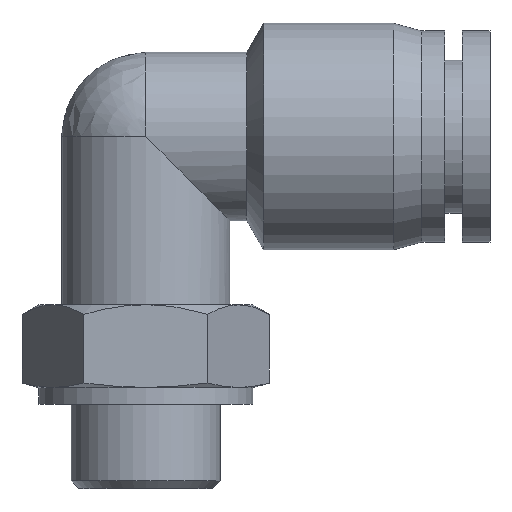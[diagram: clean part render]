
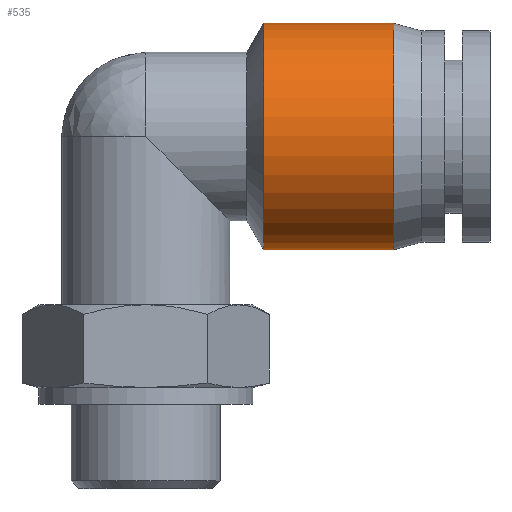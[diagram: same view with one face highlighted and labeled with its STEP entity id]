
A CAD part, top view. The second image highlights one B-rep face of the part: STEP entity #535.
In plain terms, the highlighted cylindrical face has radius 7.4 mm (diameter 14.8 mm), a full revolution.
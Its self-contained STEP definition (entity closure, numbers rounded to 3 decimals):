
#75=FACE_BOUND($,#177,.T.);
#92=CYLINDRICAL_SURFACE($,#604,7.4);
#127=FACE_OUTER_BOUND($,#176,.T.);
#176=EDGE_LOOP($,(#473));
#177=EDGE_LOOP($,(#474));
#216=CIRCLE($,#603,7.4);
#217=CIRCLE($,#605,7.4);
#280=VERTEX_POINT($,#975);
#281=VERTEX_POINT($,#978);
#347=EDGE_CURVE($,#280,#280,#216,.T.);
#348=EDGE_CURVE($,#281,#281,#217,.T.);
#473=ORIENTED_EDGE($,*,*,#348,.F.);
#474=ORIENTED_EDGE($,*,*,#347,.T.);
#535=ADVANCED_FACE($,(#127,#75),#92,.T.);
#603=AXIS2_PLACEMENT_3D($,#976,#744,#745);
#604=AXIS2_PLACEMENT_3D($,#977,#746,#747);
#605=AXIS2_PLACEMENT_3D($,#979,#748,#749);
#744=DIRECTION('center_axis',(1.,0.,0.));
#745=DIRECTION('ref_axis',(0.,1.,0.));
#746=DIRECTION('center_axis',(1.,0.,0.));
#747=DIRECTION('ref_axis',(0.,1.,0.));
#748=DIRECTION('center_axis',(1.,0.,0.));
#749=DIRECTION('ref_axis',(0.,1.,0.));
#975=CARTESIAN_POINT('',(7.7,7.4,0.));
#976=CARTESIAN_POINT('Origin',(7.7,0.,0.));
#977=CARTESIAN_POINT('Origin',(11.95,0.,0.));
#978=CARTESIAN_POINT('',(16.2,7.4,0.));
#979=CARTESIAN_POINT('Origin',(16.2,0.,0.));
